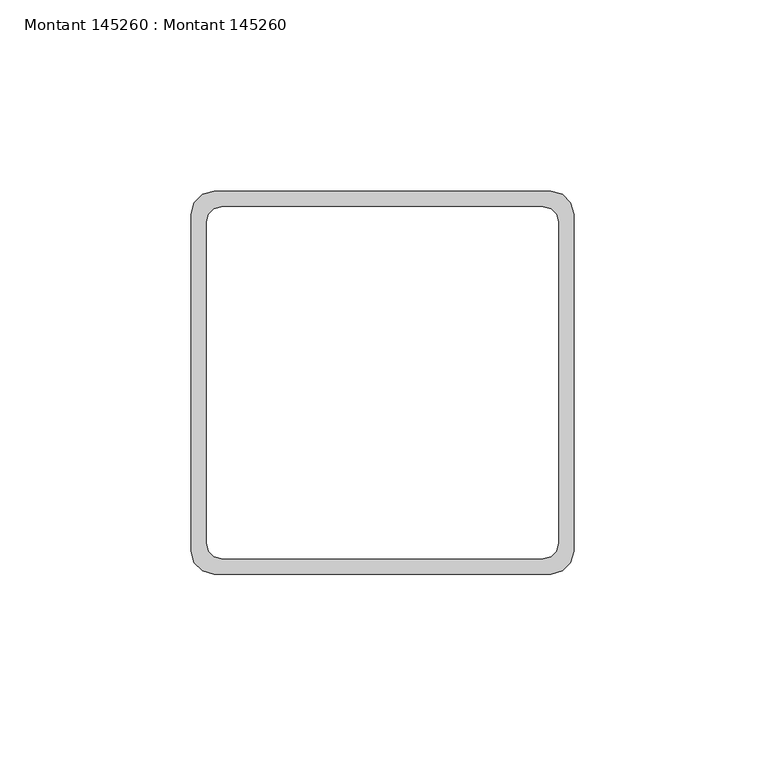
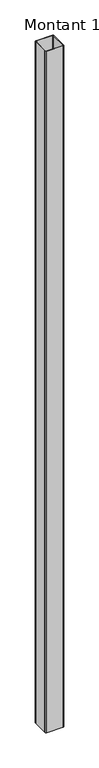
"""IFC4 building model written with IfcOpenShell, lengths in millimetres: beam geometry, Montant 145260 : Montant 145260."""

import ifcopenshell
import ifcopenshell.guid

model = None  # the IFC model being written
_history = None  # IfcOwnerHistory: only IFC2X3 demands one
_inside = {}  # id of a spatial element -> (the spatial element, [elements in it])
_under = {}  # id of a project, library or spatial element -> (it, [spatial elements below it])
_declared = {}  # id of a project -> (the project, [libraries it declares])
_typed = {}  # id of a type object -> (the type object, [elements of that type])
_made_of = {}  # id of a material, layer set ... -> (it, [elements and type objects made of it])


def new_model(schema):
    """Start an empty IFC model of exactly this schema.

    Asked for "IFC4X3", IfcOpenShell would pick the latest addendum, in which some entities
    have other attributes; the version numbers below select the first issue.
    IFC2X3 requires an IfcOwnerHistory on every rooted entity: one is made here for all.
    """
    global model, _history
    if schema == "IFC4X3":
        model = ifcopenshell.file(schema_version=(4, 3, 0, 0))
    else:
        model = ifcopenshell.file(schema=schema)
    _inside.clear()
    _under.clear()
    _declared.clear()
    _typed.clear()
    _made_of.clear()
    _history = None
    if model.schema == "IFC2X3":
        org = make("IfcOrganization", Name="unknown")
        user = make(
            "IfcPersonAndOrganization",
            ThePerson=make("IfcPerson", FamilyName="unknown"),
            TheOrganization=org,
        )
        app = make(
            "IfcApplication",
            ApplicationDeveloper=org,
            Version="unknown",
            ApplicationFullName="unknown",
            ApplicationIdentifier="unknown",
        )
        _history = make(
            "IfcOwnerHistory",
            OwningUser=user,
            OwningApplication=app,
            ChangeAction="ADDED",
            CreationDate=0,
        )
    return model


def make(cls, **values):
    """One entity of the class cls with the attributes given. An attribute that is None is left unset."""
    return model.create_entity(
        cls, **{name: value for name, value in values.items() if value is not None}
    )


def rooted(cls, **values):
    """An entity with a GlobalId (a new one), such as an element, a storey or a relation."""
    return make(cls, GlobalId=ifcopenshell.guid.new(), OwnerHistory=_history, **values)


def si_unit(unit_type, name, prefix=None):
    """IfcSIUnit, for example si_unit("LENGTHUNIT", "METRE", prefix="MILLI")."""
    return make("IfcSIUnit", UnitType=unit_type, Prefix=prefix, Name=name)


def assignment(units):
    """IfcUnitAssignment: the units of a project."""
    return None if units is None else make("IfcUnitAssignment", Units=units)


def point(xyz):
    """IfcCartesianPoint."""
    return None if xyz is None else make("IfcCartesianPoint", Coordinates=xyz)


def direction(xyz):
    """IfcDirection."""
    return None if xyz is None else make("IfcDirection", DirectionRatios=xyz)


def frame(location, z_axis=None, x_axis=None):
    """IfcAxis2Placement3D, a coordinate frame: its origin and axes. An axis left out is left unset."""
    return make(
        "IfcAxis2Placement3D",
        Location=point(location),
        Axis=direction(z_axis),
        RefDirection=direction(x_axis),
    )


def origin():
    """The frame at (0, 0, 0) with its axes left unset."""
    return frame((0.0, 0.0, 0.0))


def place(relative_to, where):
    """IfcLocalPlacement: puts the frame where relative to a parent placement (None: the world)."""
    return make(
        "IfcLocalPlacement", PlacementRelTo=relative_to, RelativePlacement=where
    )


def context(
    kind, dimensions, precision=None, world=None, true_north=None, identifier=None
):
    """IfcGeometricRepresentationContext, for example the 3D "Model" context."""
    return make(
        "IfcGeometricRepresentationContext",
        ContextIdentifier=identifier,
        ContextType=kind,
        CoordinateSpaceDimension=dimensions,
        Precision=precision,
        WorldCoordinateSystem=world,
        TrueNorth=true_north,
    )


def project(units=None, contexts=None):
    """IfcProject with its units and contexts."""
    return rooted(
        "IfcProject",
        Name="project",
        RepresentationContexts=contexts,
        UnitsInContext=assignment(units),
    )


def spatial(cls, under=None, at=None, **own):
    """A site, building, storey or space (cls), placed at a placement, below another one or the project."""
    s = rooted(cls, ObjectPlacement=at, **own)
    if under is not None:
        _under.setdefault(under.id(), (under, []))[1].append(s)
    return s


def polyline(points):
    """IfcPolyline through the points."""
    return make("IfcPolyline", Points=[point(p) for p in points])


def outline(outer, holes=None, kind="AREA"):
    """IfcArbitraryClosedProfileDef: a profile drawn as a closed curve; with holes, ...WithVoids."""
    if holes is None:
        return make("IfcArbitraryClosedProfileDef", ProfileType=kind, OuterCurve=outer)
    return make(
        "IfcArbitraryProfileDefWithVoids",
        ProfileType=kind,
        OuterCurve=outer,
        InnerCurves=holes,
    )


def extrude(swept, where, along, depth):
    """IfcExtrudedAreaSolid: the profile swept, set in the frame where, extruded along a direction by depth."""
    return make(
        "IfcExtrudedAreaSolid",
        SweptArea=swept,
        Position=where,
        ExtrudedDirection=direction(along),
        Depth=depth,
    )


def shape(context_of_items, identifier, shape_type, items):
    """IfcShapeRepresentation: the items that make up one representation, for example the "Body"."""
    return make(
        "IfcShapeRepresentation",
        ContextOfItems=context_of_items,
        RepresentationIdentifier=identifier,
        RepresentationType=shape_type,
        Items=items,
    )


def source(mapping_origin, context_of_items, identifier, shape_type, items):
    """IfcRepresentationMap: a shape defined once, which mapped items show again and again."""
    return make(
        "IfcRepresentationMap",
        MappingOrigin=mapping_origin,
        MappedRepresentation=shape(context_of_items, identifier, shape_type, items),
    )


def transform(
    local_origin,
    x_axis=None,
    y_axis=None,
    z_axis=None,
    scale=None,
    scale2=None,
    scale3=None,
    uniform=True,
):
    """IfcCartesianTransformationOperator3D, or its non-uniform kind. x_axis, y_axis, z_axis: its Axis1, 2, 3."""
    if uniform:
        return make(
            "IfcCartesianTransformationOperator3D",
            Axis1=direction(x_axis),
            Axis2=direction(y_axis),
            LocalOrigin=point(local_origin),
            Scale=scale,
            Axis3=direction(z_axis),
        )
    return make(
        "IfcCartesianTransformationOperator3DnonUniform",
        Axis1=direction(x_axis),
        Axis2=direction(y_axis),
        LocalOrigin=point(local_origin),
        Scale=scale,
        Axis3=direction(z_axis),
        Scale2=scale2,
        Scale3=scale3,
    )


def mapped(mapping_source, mapping_target):
    """IfcMappedItem: shows the shape of a source again, moved by a transform."""
    return make(
        "IfcMappedItem", MappingSource=mapping_source, MappingTarget=mapping_target
    )


def made_of(thing, what):
    """Note that an element or type object is made of a material, layer set ...; save() writes the relation."""
    if what is not None:
        _made_of.setdefault(what.id(), (what, []))[1].append(thing)
    return thing


def element(
    cls,
    number,
    at=None,
    inside=None,
    cuts=None,
    type_object=None,
    material=None,
    context=None,
    identifier="Body",
    shape_type=None,
    held_by="IfcProductDefinitionShape",
    body=None,
    shapes=None,
    **own,
):
    """One element of the class cls, such as IfcWall. Its Tag is "e" and its number.

    at: its placement. inside: the storey or other place that contains it. cuts: it is an
    opening in that element (IfcRelVoidsElement). A single representation is given by context,
    identifier, shape_type and body (its items); several are given by shapes. held_by: the class
    of the entity that holds the representations. save() writes the other relations.
    """
    e = rooted(cls, Tag="e%d" % number, ObjectPlacement=at, **own)
    if body is not None:
        shapes = [shape(context, identifier, shape_type, body)]
    if shapes is not None:
        e.Representation = make(held_by, Representations=shapes)
    if inside is not None:
        _inside.setdefault(inside.id(), (inside, []))[1].append(e)
    if cuts is not None:
        rooted(
            "IfcRelVoidsElement", RelatingBuildingElement=cuts, RelatedOpeningElement=e
        )
    if type_object is not None:
        _typed.setdefault(type_object.id(), (type_object, []))[1].append(e)
    return made_of(e, material)


def aggregate(whole, parts):
    """IfcRelAggregates: a whole, such as a stair, and the parts it consists of."""
    return rooted("IfcRelAggregates", RelatingObject=whole, RelatedObjects=parts)


def save(model, path):
    """Write the relations noted so far, then the file.

    IfcRelAggregates (storeys below a building ...), IfcRelContainedInSpatialStructure (elements
    in a storey), IfcRelDefinesByType, IfcRelAssociatesMaterial and IfcRelDeclares: one each for
    every whole, place, type object, material and project.
    """
    for whole, parts in _under.values():
        aggregate(whole, parts)
    for where, things in _inside.values():
        rooted(
            "IfcRelContainedInSpatialStructure",
            RelatedElements=things,
            RelatingStructure=where,
        )
    for kind, things in _typed.values():
        rooted("IfcRelDefinesByType", RelatedObjects=things, RelatingType=kind)
    for what, things in _made_of.values():
        rooted("IfcRelAssociatesMaterial", RelatedObjects=things, RelatingMaterial=what)
    for by, libraries in _declared.values():
        rooted("IfcRelDeclares", RelatingContext=by, RelatedDefinitions=libraries)
    model.write(path)


def montant_145260_montant_145260_e38da05a(model_context):
    return source(origin(), model_context, "Body", "SweptSolid", [
        extrude(outline(polyline([(14845.9999999, -5.0), (14842.9999999, -4.1961524), (14840.8038474, -2.0), (14839.9999999, 1.0), (14839.9999999, 89.0), (14840.8038474, 92.0), (14842.9999999, 94.1961524), (14845.9999999, 95.0), (14933.9999999, 95.0), (14936.9999999, 94.1961524), (14939.1961523, 92.0), (14939.9999999, 89.0), (14939.9999999, 1.0), (14939.1961523, -2.0), (14936.9999999, -4.1961524), (14933.9999999, -5.0), (14845.9999999, -5.0)]), holes=[polyline([(14931.9999999, -1.0), (14933.9999999, -0.4641016), (14935.4641015, 1.0), (14935.9999999, 3.0), (14935.9999999, 87.0), (14935.4641015, 89.0), (14933.9999999, 90.4641016), (14931.9999999, 91.0), (14847.9999999, 91.0), (14845.9999999, 90.4641016), (14844.5358983, 89.0), (14843.9999999, 87.0), (14843.9999999, 3.0), (14844.5358983, 1.0), (14845.9999999, -0.4641016), (14847.9999999, -1.0), (14931.9999999, -1.0)])]), frame((0.0, 0.0, 3200.0), z_axis=(0.0, 0.0, 1.0), x_axis=(1.0, 0.0, 0.0)), (0.0, 0.0, 1.0), 3900.0),
    ])


if __name__ == "__main__":
    model = new_model("IFC4")
    model_context = context("Model", 3, world=origin())
    ifc_project = project(units=[si_unit("LENGTHUNIT", "METRE", prefix="MILLI")], contexts=[model_context])
    site = spatial("IfcSite", under=ifc_project)
    building = spatial("IfcBuilding", under=site)
    placement = place(None, origin())
    montant_145260_montant_145260_shape = montant_145260_montant_145260_e38da05a(model_context)
    element("IfcBeam", 1, ObjectType="Montant 145260 : Montant 145260", at=placement, inside=building, context=model_context, shape_type="MappedRepresentation", body=[
        mapped(montant_145260_montant_145260_shape, transform((0.0, 0.0, 0.0), x_axis=(1.0, 0.0, 0.0), y_axis=(0.0, 1.0, 0.0), z_axis=(0.0, 0.0, 1.0))),
    ])
    save(model, "model.ifc")
